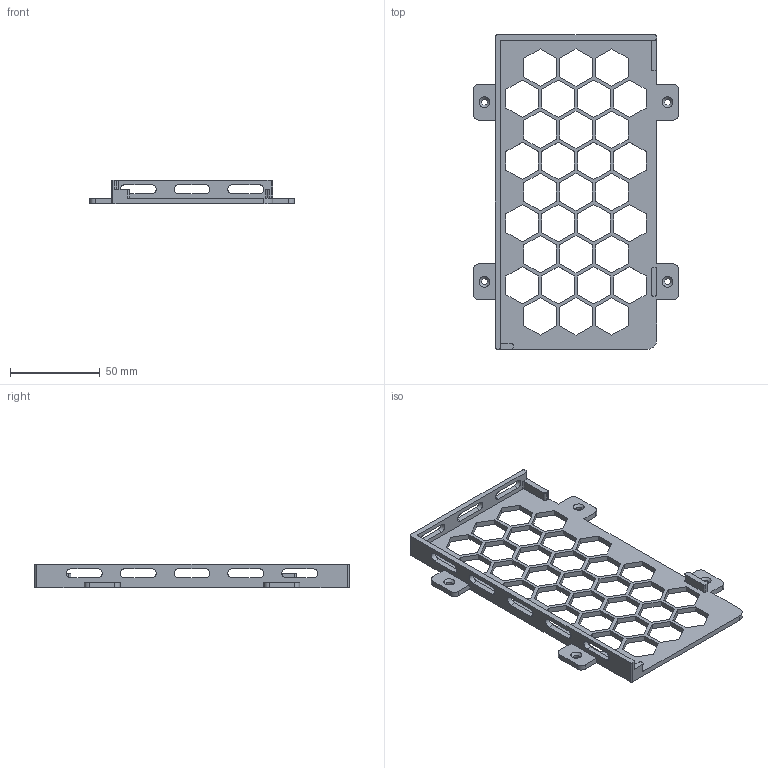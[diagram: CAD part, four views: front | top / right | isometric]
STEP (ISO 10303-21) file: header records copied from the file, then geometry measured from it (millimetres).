
FILE_DESCRIPTION(('Open CASCADE Model'),'2;1');
FILE_NAME('PhoneBed','2026-06-25T14:49:39',('Author'),('Open CASCADE'), 'Open CASCADE STEP processor 7.8','build123d','Unknown');
FILE_SCHEMA(('AUTOMOTIVE_DESIGN { 1 0 10303 214 1 1 1 1 }'));
Length unit declared in the file: millimetre
Products named in the file (1): PhoneBed
Bounding box: 114 x 175 x 13 mm (x, y, z)
Volume: 29992.2 mm3; surface area: 28917.8 mm2
Topology: 1 solids, 1 shells, 287 faces, 848 edges, 564 vertices
Faces by surface type: plane 238, cylinder 45, cone 4
Full cylindrical faces by diameter (mm): 3.4 x4
Entity records: 20792 total; most frequent: CARTESIAN_POINT 3688, DIRECTION 3152, LINE 2344, VECTOR 2344, ORIENTED_EDGE 1696, PCURVE 1696, DEFINITIONAL_REPRESENTATION 1696, EDGE_CURVE 848
